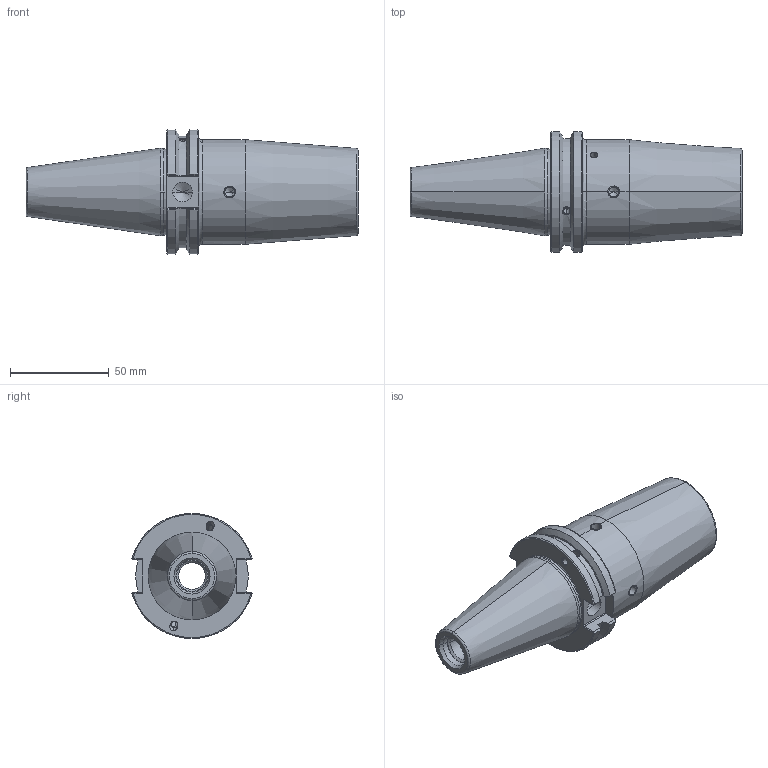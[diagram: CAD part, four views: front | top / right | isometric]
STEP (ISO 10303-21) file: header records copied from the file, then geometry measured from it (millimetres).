
FILE_DESCRIPTION((''),'2;1');
FILE_NAME('CAT40ADB-SFH25_4C-100','2020-09-02T08:29:33',('ssktool'),(''),'CREO PARAMETRIC BY PTC INC, 2018100','CREO PARAMETRIC BY PTC INC, 2018100','');
FILE_SCHEMA(('CONFIG_CONTROL_DESIGN'));
Length unit declared in the file: millimetre
Products named in the file (1): CAT40ADB-SFH25_4C-100
Bounding box: 168.25 x 60.84 x 63.27 mm (x, y, z)
Volume: 221360.6 mm3; surface area: 43537.3 mm2
Topology: 1 solids, 10 shells, 201 faces, 538 edges, 337 vertices
Faces by surface type: cylinder 86, plane 55, cone 40, torus 16, bspline 4
Entity records: 6929 total; most frequent: CARTESIAN_POINT 2052, DIRECTION 990, ORIENTED_EDGE 984, EDGE_CURVE 520, AXIS2_PLACEMENT_3D 392, VERTEX_POINT 337, EDGE_LOOP 233, VECTOR 206
